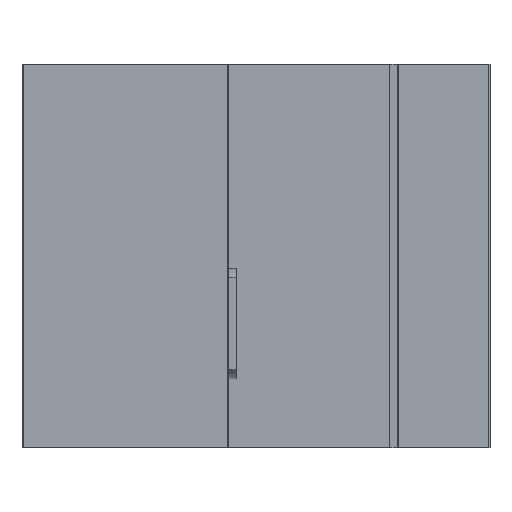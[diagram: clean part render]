
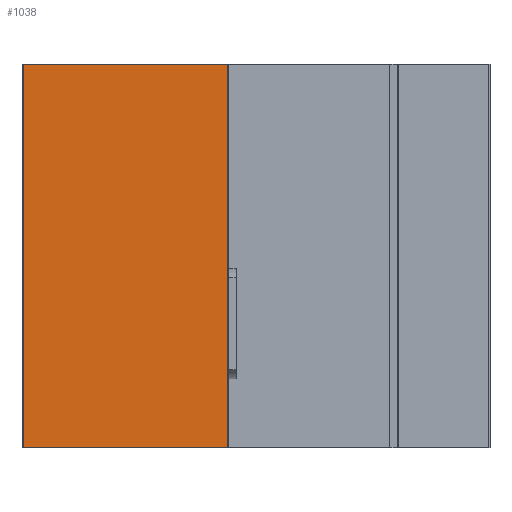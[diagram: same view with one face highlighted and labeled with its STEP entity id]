
A CAD part, front view. The second image highlights one B-rep face of the part: STEP entity #1038.
In plain terms, the highlighted planar face has unit normal (0, -1, 0).
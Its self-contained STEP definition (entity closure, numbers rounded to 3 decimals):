
#642 = VERTEX_POINT( '', #1822 );
#708 = EDGE_CURVE( '', #760, #1004, #1895, .T. );
#760 = VERTEX_POINT( '', #1960 );
#814 = EDGE_CURVE( '', #760, #642, #2018, .T. );
#1004 = VERTEX_POINT( '', #2233 );
#1038 = ADVANCED_FACE( '', ( #2271 ), #2272, .T. );
#1162 = VERTEX_POINT( '', #2415 );
#1268 = EDGE_CURVE( '', #642, #1162, #2540, .T. );
#1468 = EDGE_CURVE( '', #1004, #1162, #2759, .T. );
#1822 = CARTESIAN_POINT( '', ( -25.7, 0., -34. ) );
#1895 = LINE( '', #3244, #3245 );
#1960 = CARTESIAN_POINT( '', ( -25.7, 0., 0. ) );
#2018 = LINE( '', #3402, #3403 );
#2233 = CARTESIAN_POINT( '', ( -7.6, 0., 0. ) );
#2271 = FACE_OUTER_BOUND( '', #3767, .T. );
#2272 = PLANE( '', #3768 );
#2415 = CARTESIAN_POINT( '', ( -7.6, 0., -34. ) );
#2540 = LINE( '', #4116, #4117 );
#2759 = LINE( '', #4420, #4421 );
#3244 = CARTESIAN_POINT( '', ( -25.7, 0., 0. ) );
#3245 = VECTOR( '', #4960, 1. );
#3402 = CARTESIAN_POINT( '', ( -25.7, 0., 0. ) );
#3403 = VECTOR( '', #5104, 1. );
#3767 = EDGE_LOOP( '', ( #5417, #5418, #5419, #5420 ) );
#3768 = AXIS2_PLACEMENT_3D( '', #5421, #5422, #5423 );
#4116 = CARTESIAN_POINT( '', ( -25.7, 0., -34. ) );
#4117 = VECTOR( '', #5775, 1. );
#4420 = CARTESIAN_POINT( '', ( -7.6, 0., 0. ) );
#4421 = VECTOR( '', #6018, 1. );
#4960 = DIRECTION( '', ( 1., 0., 0. ) );
#5104 = DIRECTION( '', ( 0., 0., -1. ) );
#5417 = ORIENTED_EDGE( '', *, *, #1268, .T. );
#5418 = ORIENTED_EDGE( '', *, *, #1468, .F. );
#5419 = ORIENTED_EDGE( '', *, *, #708, .F. );
#5420 = ORIENTED_EDGE( '', *, *, #814, .T. );
#5421 = CARTESIAN_POINT( '', ( -25.7, 0., 0. ) );
#5422 = DIRECTION( '', ( 0., -1., 0. ) );
#5423 = DIRECTION( '', ( -1., 0., 0. ) );
#5775 = DIRECTION( '', ( 1., 0., 0. ) );
#6018 = DIRECTION( '', ( 0., 0., -1. ) );
